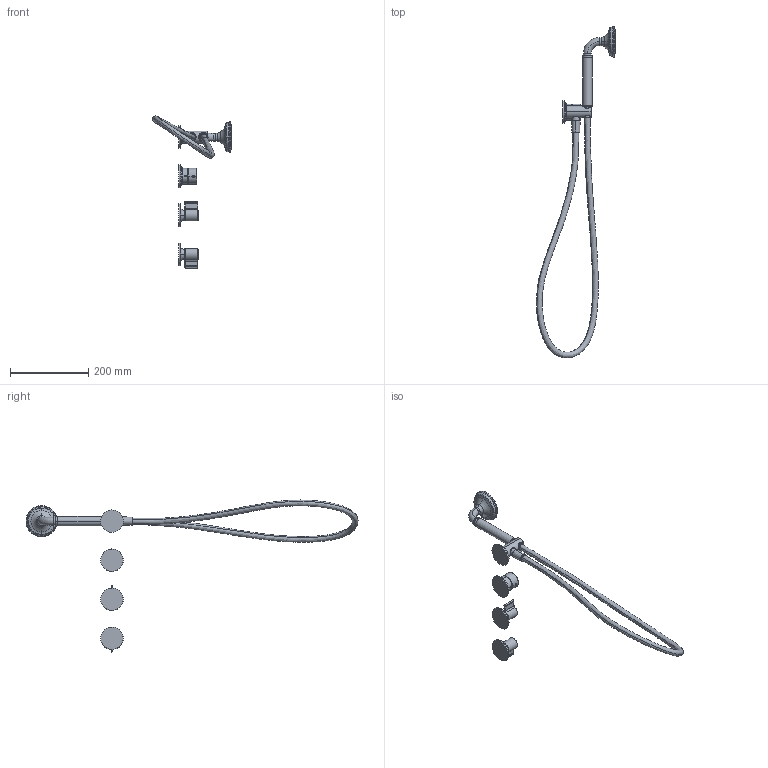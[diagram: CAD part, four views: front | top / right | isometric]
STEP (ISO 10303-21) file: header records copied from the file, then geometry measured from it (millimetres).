
FILE_DESCRIPTION((''),'2;1');
FILE_NAME('76000J517B000000_SW0001','2025-03-13T10:46:20',('cristian.dorz'),(''),'CREO PARAMETRIC BY PTC INC, 2022281','CREO PARAMETRIC BY PTC INC, 2022281','');
FILE_SCHEMA(('AUTOMOTIVE_DESIGN { 1 0 10303 214 1 1 1 1 }'));
Products named in the file (1): 76000J517B000000_SW0001
Bounding box: 202.78 x 850.06 x 389.23 mm (x, y, z)
Volume: 606288.5 mm3; surface area: 144668.7 mm2
Topology: 4 solids, 5 shells, 955 faces, 2092 edges, 1328 vertices
Faces by surface type: cone 355, plane 250, cylinder 224, torus 81, bspline 40, extrusion 3, sphere 2
Entity records: 56813 total; most frequent: CARTESIAN_POINT 30585, ORIENTED_EDGE 4176, DIRECTION 3991, EDGE_CURVE 2088, AXIS2_PLACEMENT_3D 1664, VERTEX_POINT 1328, EDGE_LOOP 1148, FACE_OUTER_BOUND 955
